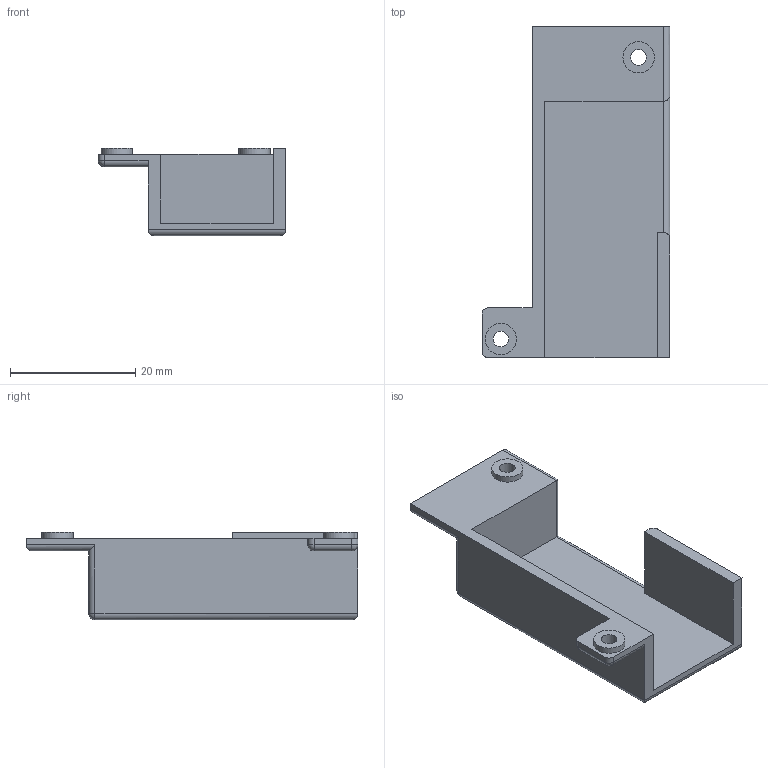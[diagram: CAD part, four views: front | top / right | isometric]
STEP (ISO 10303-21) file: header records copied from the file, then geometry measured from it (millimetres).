
FILE_DESCRIPTION(/* description */ (''),/* implementation_level */ '2;1');
FILE_NAME(/* name */ 'Z:\Flow\Inventor\Spritzenpumpe\Spritzenpumpe Kappe Endstopp.stp',/* time_stamp */ '2018-09-10T15:59:48+02:00',/* author */ ('JN'),/* organization */ (''),/* preprocessor_version */ 'ST-DEVELOPER v16.13',/* originating_system */ 'Autodesk Inventor 2018',/* authorisation */ '');
FILE_SCHEMA (('AUTOMOTIVE_DESIGN { 1 0 10303 214 3 1 1 }'));
Length unit declared in the file: millimetre
Products named in the file (1): Spritzenpumpe Kappe Endstopp
Bounding box: 30 x 53 x 14 mm (x, y, z)
Volume: 4269.9 mm3; surface area: 4682.5 mm2
Topology: 1 solids, 1 shells, 45 faces, 108 edges, 66 vertices
Faces by surface type: plane 20, cylinder 19, sphere 4, cone 2
Full cylindrical faces by diameter (mm): 2.5 x2, 5 x2
Entity records: 1301 total; most frequent: DIRECTION 227, CARTESIAN_POINT 227, ORIENTED_EDGE 198, EDGE_CURVE 99, AXIS2_PLACEMENT_3D 84, VERTEX_POINT 63, LINE 59, VECTOR 59
